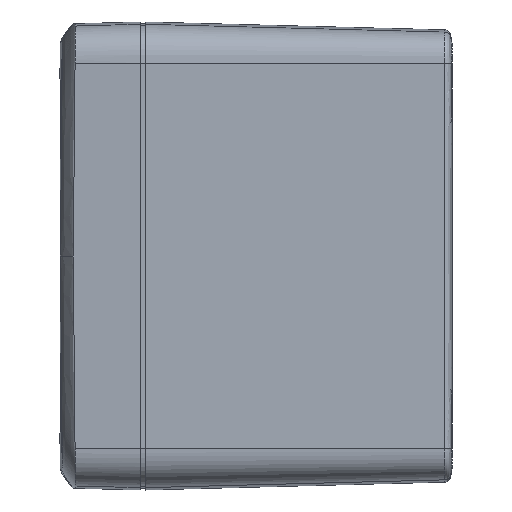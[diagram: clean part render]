
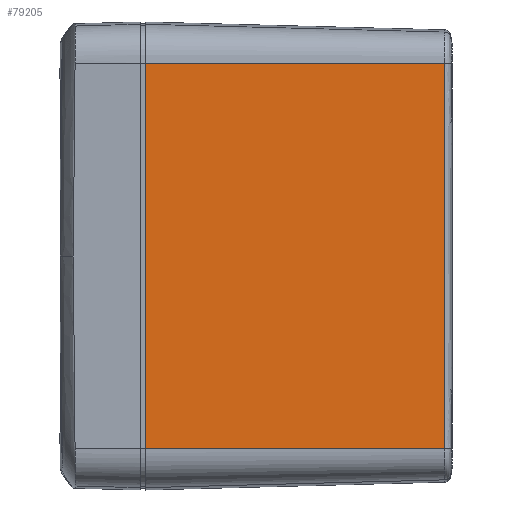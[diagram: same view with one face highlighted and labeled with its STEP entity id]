
A CAD part, left-side view. The second image highlights one B-rep face of the part: STEP entity #79205.
In plain terms, the highlighted planar face has unit normal (-1, -0.026, 0).
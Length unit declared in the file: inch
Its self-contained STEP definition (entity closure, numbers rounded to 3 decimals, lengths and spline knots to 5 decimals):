
#2663 = B_SPLINE_CURVE_WITH_KNOTS ( 'NONE', 3,
 ( #46030, #77655, #14940, #70391 ),
 .UNSPECIFIED., .F., .F.,
 ( 4, 4 ),
 ( 0., 1. ),
 .UNSPECIFIED. ) ;
#4434 = EDGE_CURVE ( 'NONE', #96087, #96523, #56936, .T. ) ;
#9761 = DIRECTION ( 'NONE',  ( 0.026, -1., 0. ) ) ;
#10004 = DIRECTION ( 'NONE',  ( 0.026, -1., 0. ) ) ;
#11129 = CARTESIAN_POINT ( 'NONE',  ( -2.125, 1.965, -1.23495 ) ) ;
#12220 = VERTEX_POINT ( 'NONE', #34136 ) ;
#14940 = CARTESIAN_POINT ( 'NONE',  ( -2.07477, 0.04673, 0.41165 ) ) ;
#19800 = CARTESIAN_POINT ( 'NONE',  ( -2.125, 1.965, 1.23495 ) ) ;
#21392 = AXIS2_PLACEMENT_3D ( 'NONE', #40618, #88783, #10004 ) ;
#22005 = ORIENTED_EDGE ( 'NONE', *, *, #74604, .F. ) ;
#27205 = VECTOR ( 'NONE', #59759, 39.37008 ) ;
#32841 = VECTOR ( 'NONE', #9761, 39.37008 ) ;
#33513 = ORIENTED_EDGE ( 'NONE', *, *, #4434, .T. ) ;
#34136 = CARTESIAN_POINT ( 'NONE',  ( -2.07477, 0.04673, 1.23495 ) ) ;
#34917 = CARTESIAN_POINT ( 'NONE',  ( -2.07477, 0.04671, -1.23495 ) ) ;
#40618 = CARTESIAN_POINT ( 'NONE',  ( -2.125, 1.965, -1.23495 ) ) ;
#43769 = EDGE_CURVE ( 'NONE', #96523, #12220, #2663, .T. ) ;
#45697 = VERTEX_POINT ( 'NONE', #19800 ) ;
#46030 = CARTESIAN_POINT ( 'NONE',  ( -2.07477, 0.04671, -1.23495 ) ) ;
#50519 = DIRECTION ( 'NONE',  ( 0., 0., 1. ) ) ;
#52179 = ORIENTED_EDGE ( 'NONE', *, *, #43769, .T. ) ;
#56936 = LINE ( 'NONE', #88533, #32841 ) ;
#59759 = DIRECTION ( 'NONE',  ( 0.026, -1., 0. ) ) ;
#65999 = LINE ( 'NONE', #91357, #27205 ) ;
#70391 = CARTESIAN_POINT ( 'NONE',  ( -2.07477, 0.04673, 1.23495 ) ) ;
#70476 = CARTESIAN_POINT ( 'NONE',  ( -2.125, 1.965, -1.23495 ) ) ;
#74604 = EDGE_CURVE ( 'NONE', #96087, #45697, #82115, .T. ) ;
#77655 = CARTESIAN_POINT ( 'NONE',  ( -2.07477, 0.04673, -0.41165 ) ) ;
#79205 = ADVANCED_FACE ( 'Face2', ( #81007 ), #96545, .T. ) ;
#81007 = FACE_OUTER_BOUND ( 'NONE', #83213, .T. ) ;
#82115 = LINE ( 'NONE', #11129, #92321 ) ;
#83213 = EDGE_LOOP ( 'NONE', ( #33513, #52179, #93018, #22005 ) ) ;
#88533 = CARTESIAN_POINT ( 'NONE',  ( -2.125, 1.965, -1.23495 ) ) ;
#88783 = DIRECTION ( 'NONE',  ( -1., -0.026, 0. ) ) ;
#91357 = CARTESIAN_POINT ( 'NONE',  ( -2.125, 1.965, 1.23495 ) ) ;
#91788 = EDGE_CURVE ( 'NONE', #45697, #12220, #65999, .T. ) ;
#92321 = VECTOR ( 'NONE', #50519, 39.37008 ) ;
#93018 = ORIENTED_EDGE ( 'NONE', *, *, #91788, .F. ) ;
#96087 = VERTEX_POINT ( 'NONE', #70476 ) ;
#96523 = VERTEX_POINT ( 'NONE', #34917 ) ;
#96545 = PLANE ( 'NONE',  #21392 ) ;
